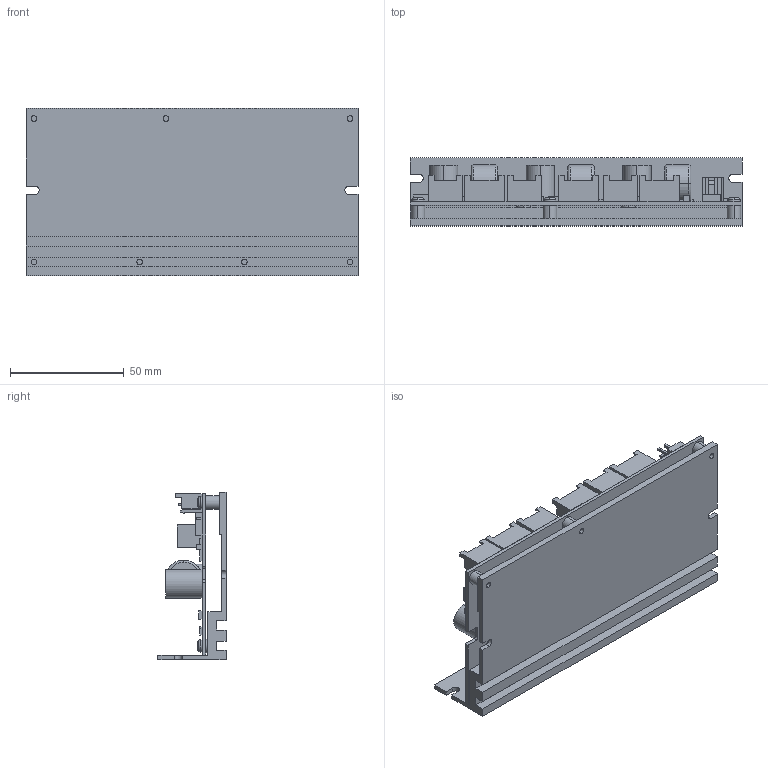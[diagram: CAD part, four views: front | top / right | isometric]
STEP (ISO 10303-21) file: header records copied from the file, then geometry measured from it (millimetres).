
FILE_DESCRIPTION (( 'STEP AP214' ), '1' );
FILE_NAME ('EXD5014MS-3L.STEP', '2016-09-07T07:17:46', ( 'hoho' ), ( '' ), 'SwSTEP 2.0', 'SolidWorks 2013', '' );
FILE_SCHEMA (( 'AUTOMOTIVE_DESIGN' ));
Length unit declared in the file: millimetre
Products named in the file (8): 大莫氏公-PIN02; 接頭-5pin; 接頭-6pin; NKJ3-6_NKJ3-6; VR-B02; EXD5014MS-3L-PCB; EXD5014MS-3L-C1; EXD5014MS-3L
Assembly tree (19 placements, depth 2):
  EXD5014MS-3L
    EXD5014MS-3L-C1
    EXD5014MS-3L-PCB
    VR-B02  x3
    NKJ3-6_NKJ3-6  x7
    接頭-6pin  x3
    接頭-5pin  x3
    大莫氏公-PIN02
Bounding box: 146 x 30 x 73.5 mm (x, y, z)
Volume: 79312.4 mm3; surface area: 71117.1 mm2
Topology: 19 solids, 19 shells, 1838 faces, 4634 edges, 3062 vertices
Faces by surface type: plane 1317, bspline 291, cylinder 136, torus 52, cone 28, sphere 14
Entity records: 42009 total; most frequent: CARTESIAN_POINT 11487, ORIENTED_EDGE 4900, DIRECTION 4310, EDGE_CURVE 2450, VECTOR 2004, LINE 2004, VERTEX_POINT 1622, EDGE_LOOP 1164
